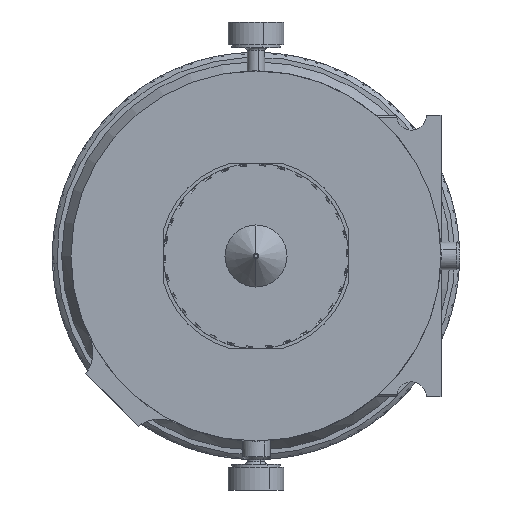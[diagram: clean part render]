
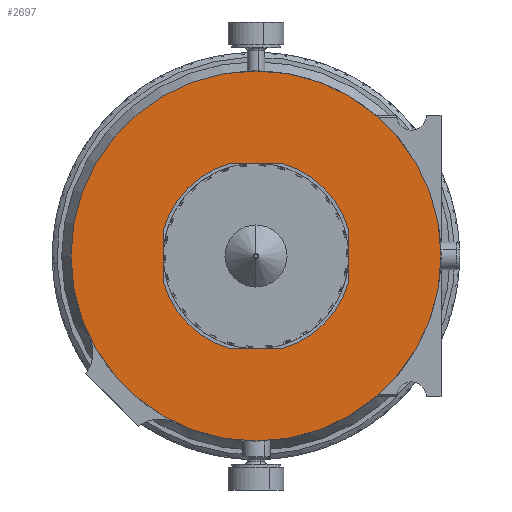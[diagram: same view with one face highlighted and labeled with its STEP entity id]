
A CAD part, front view. The second image highlights one B-rep face of the part: STEP entity #2697.
In plain terms, the highlighted planar face has unit normal (0, -1, 0).
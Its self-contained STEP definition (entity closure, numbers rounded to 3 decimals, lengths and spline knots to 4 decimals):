
#133 = CARTESIAN_POINT ( 'NONE',  ( -0.1726, -3.6061, 0. ) ) ;
#153 = VERTEX_POINT ( 'NONE', #27221 ) ;
#693 = CIRCLE ( 'NONE', #28051, 0.65 ) ;
#1727 = CARTESIAN_POINT ( 'NONE',  ( -0.1726, -3.6061, 0. ) ) ;
#2697 = ADVANCED_FACE ( 'Defeatured_0_934', ( #43212, #29041 ), #15654, .F. ) ;
#3004 = DIRECTION ( 'NONE',  ( -1., 0., 0. ) ) ;
#3538 = VERTEX_POINT ( 'NONE', #51414 ) ;
#4766 = EDGE_CURVE ( 'Defeatured_0_936+Defeatured_0_934+Defeatured_0_942+Defeatured_0_939', #35440, #153, #37993, .T. ) ;
#5459 = LINE ( 'NONE', #50618, #22192 ) ;
#5704 = DIRECTION ( 'NONE',  ( 0., -1., 0. ) ) ;
#7135 = EDGE_CURVE ( 'Defeatured_0_934+Defeatured_0_940+Defeatured_0_937+Defeatured_0_938', #21701, #53153, #32587, .T. ) ;
#7558 = CARTESIAN_POINT ( 'NONE',  ( -0.1726, -3.6061, 0.6875 ) ) ;
#8385 = DIRECTION ( 'NONE',  ( -1., 0., 0. ) ) ;
#8443 = AXIS2_PLACEMENT_3D ( 'NONE', #133, #28870, #8385 ) ;
#8664 = DIRECTION ( 'NONE',  ( 0., 0., -1. ) ) ;
#8800 = CARTESIAN_POINT ( 'NONE',  ( -1.4226, -3.6061, 0. ) ) ;
#9911 = ORIENTED_EDGE ( 'NONE', *, *, #51088, .F. ) ;
#10667 = DIRECTION ( 'NONE',  ( -1., 0., 0. ) ) ;
#11506 = ORIENTED_EDGE ( 'NONE', *, *, #24362, .F. ) ;
#11929 = VECTOR ( 'NONE', #46306, 39.3701 ) ;
#12310 = CARTESIAN_POINT ( 'NONE',  ( 0.0059, -3.6061, 0.625 ) ) ;
#13353 = CARTESIAN_POINT ( 'NONE',  ( 0.4524, -3.6061, 0.6875 ) ) ;
#14394 = VERTEX_POINT ( 'NONE', #50065 ) ;
#14503 = LINE ( 'NONE', #42171, #11929 ) ;
#15654 = PLANE ( 'NONE',  #19036 ) ;
#15720 = VERTEX_POINT ( 'NONE', #8800 ) ;
#15859 = VECTOR ( 'NONE', #8664, 39.3701 ) ;
#17547 = VERTEX_POINT ( 'NONE', #41667 ) ;
#17688 = CIRCLE ( 'NONE', #25750, 0.65 ) ;
#17975 = ORIENTED_EDGE ( 'NONE', *, *, #7135, .T. ) ;
#18677 = CARTESIAN_POINT ( 'NONE',  ( -0.1726, -3.6061, -0.625 ) ) ;
#19036 = AXIS2_PLACEMENT_3D ( 'NONE', #7558, #44267, #27679 ) ;
#19151 = AXIS2_PLACEMENT_3D ( 'NONE', #27168, #39629, #10667 ) ;
#19702 = ORIENTED_EDGE ( 'NONE', *, *, #26082, .F. ) ;
#20064 = CIRCLE ( 'NONE', #8443, 1.25 ) ;
#21163 = EDGE_CURVE ( 'Defeatured_0_934+Defeatured_0_939+Defeatured_0_938+Defeatured_0_936', #17547, #153, #34447, .T. ) ;
#21701 = VERTEX_POINT ( 'NONE', #28804 ) ;
#22192 = VECTOR ( 'NONE', #23055, 39.3701 ) ;
#23055 = DIRECTION ( 'NONE',  ( 1., 0., 0. ) ) ;
#23513 = VECTOR ( 'NONE', #3004, 39.3701 ) ;
#24362 = EDGE_CURVE ( 'Defeatured_0_935+Defeatured_0_934+Defeatured_0_941+Defeatured_0_942', #14394, #3538, #693, .T. ) ;
#24513 = CIRCLE ( 'NONE', #19151, 0.65 ) ;
#25750 = AXIS2_PLACEMENT_3D ( 'NONE', #44332, #36212, #40368 ) ;
#26082 = EDGE_CURVE ( 'Defeatured_0_937+Defeatured_0_934+Defeatured_0_940+Defeatured_0_941', #21701, #28163, #24513, .T. ) ;
#27168 = CARTESIAN_POINT ( 'NONE',  ( -0.1726, -3.6061, 0. ) ) ;
#27221 = CARTESIAN_POINT ( 'NONE',  ( -0.3512, -3.6061, -0.625 ) ) ;
#27679 = DIRECTION ( 'NONE',  ( -1., 0., 0. ) ) ;
#27826 = CARTESIAN_POINT ( 'NONE',  ( -0.1726, -3.6061, 0. ) ) ;
#28051 = AXIS2_PLACEMENT_3D ( 'NONE', #47273, #5704, #35019 ) ;
#28163 = VERTEX_POINT ( 'NONE', #12310 ) ;
#28804 = CARTESIAN_POINT ( 'NONE',  ( 0.4524, -3.6061, 0.1785 ) ) ;
#28870 = DIRECTION ( 'NONE',  ( 0., 1., 0. ) ) ;
#29041 = FACE_OUTER_BOUND ( 'NONE', #46494, .T. ) ;
#30700 = EDGE_CURVE ( 'Defeatured_0_934+Defeatured_0_942+Defeatured_0_936+Defeatured_0_935', #35440, #3538, #14503, .T. ) ;
#32587 = LINE ( 'NONE', #13353, #15859 ) ;
#32949 = ORIENTED_EDGE ( 'NONE', *, *, #33189, .F. ) ;
#33054 = CIRCLE ( 'NONE', #33231, 1.25 ) ;
#33189 = EDGE_CURVE ( 'Defeatured_0_933+Defeatured_0_934+Defeatured_0_934+Defeatured_0_934', #35839, #15720, #20064, .T. ) ;
#33231 = AXIS2_PLACEMENT_3D ( 'NONE', #1727, #43294, #34652 ) ;
#33855 = EDGE_CURVE ( 'Defeatured_0_934+Defeatured_0_941+Defeatured_0_935+Defeatured_0_937', #14394, #28163, #5459, .T. ) ;
#34006 = ORIENTED_EDGE ( 'NONE', *, *, #48887, .F. ) ;
#34447 = LINE ( 'NONE', #18677, #23513 ) ;
#34652 = DIRECTION ( 'NONE',  ( -1., 0., 0. ) ) ;
#35019 = DIRECTION ( 'NONE',  ( -1., 0., 0. ) ) ;
#35440 = VERTEX_POINT ( 'NONE', #45960 ) ;
#35839 = VERTEX_POINT ( 'NONE', #42484 ) ;
#36212 = DIRECTION ( 'NONE',  ( 0., -1., 0. ) ) ;
#37014 = AXIS2_PLACEMENT_3D ( 'NONE', #27826, #44936, #49091 ) ;
#37993 = CIRCLE ( 'NONE', #37014, 0.65 ) ;
#39629 = DIRECTION ( 'NONE',  ( 0., -1., 0. ) ) ;
#40368 = DIRECTION ( 'NONE',  ( -1., 0., 0. ) ) ;
#40968 = CARTESIAN_POINT ( 'NONE',  ( 0.4524, -3.6061, -0.1785 ) ) ;
#41667 = CARTESIAN_POINT ( 'NONE',  ( 0.0059, -3.6061, -0.625 ) ) ;
#42171 = CARTESIAN_POINT ( 'NONE',  ( -0.7976, -3.6061, 0.6875 ) ) ;
#42484 = CARTESIAN_POINT ( 'NONE',  ( 1.0774, -3.6061, 0. ) ) ;
#43212 = FACE_BOUND ( 'NONE', #53257, .T. ) ;
#43294 = DIRECTION ( 'NONE',  ( 0., 1., 0. ) ) ;
#44267 = DIRECTION ( 'NONE',  ( 0., 1., 0. ) ) ;
#44332 = CARTESIAN_POINT ( 'NONE',  ( -0.1726, -3.6061, 0. ) ) ;
#44936 = DIRECTION ( 'NONE',  ( 0., -1., 0. ) ) ;
#45960 = CARTESIAN_POINT ( 'NONE',  ( -0.7976, -3.6061, -0.1785 ) ) ;
#46221 = ORIENTED_EDGE ( 'NONE', *, *, #33855, .T. ) ;
#46306 = DIRECTION ( 'NONE',  ( 0., 0., 1. ) ) ;
#46494 = EDGE_LOOP ( 'NONE', ( #34006, #32949 ) ) ;
#47273 = CARTESIAN_POINT ( 'NONE',  ( -0.1726, -3.6061, 0. ) ) ;
#47359 = ORIENTED_EDGE ( 'NONE', *, *, #30700, .T. ) ;
#48887 = EDGE_CURVE ( 'Defeatured_0_933+Defeatured_0_934+Defeatured_0_934+Defeatured_0_934', #15720, #35839, #33054, .T. ) ;
#49091 = DIRECTION ( 'NONE',  ( -1., 0., 0. ) ) ;
#50065 = CARTESIAN_POINT ( 'NONE',  ( -0.3512, -3.6061, 0.625 ) ) ;
#50618 = CARTESIAN_POINT ( 'NONE',  ( -0.1726, -3.6061, 0.625 ) ) ;
#51088 = EDGE_CURVE ( 'Defeatured_0_938+Defeatured_0_934+Defeatured_0_939+Defeatured_0_940', #17547, #53153, #17688, .T. ) ;
#51414 = CARTESIAN_POINT ( 'NONE',  ( -0.7976, -3.6061, 0.1785 ) ) ;
#52678 = ORIENTED_EDGE ( 'NONE', *, *, #4766, .F. ) ;
#53153 = VERTEX_POINT ( 'NONE', #40968 ) ;
#53257 = EDGE_LOOP ( 'NONE', ( #19702, #17975, #9911, #53388, #52678, #47359, #11506, #46221 ) ) ;
#53388 = ORIENTED_EDGE ( 'NONE', *, *, #21163, .T. ) ;
